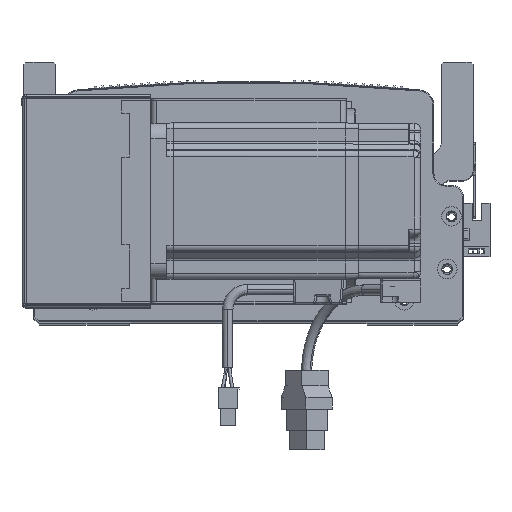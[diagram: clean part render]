
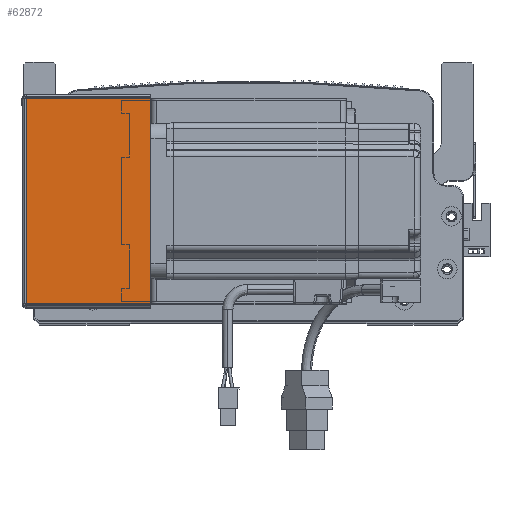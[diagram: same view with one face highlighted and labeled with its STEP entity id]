
A CAD part, top view. The second image highlights one B-rep face of the part: STEP entity #62872.
In plain terms, the highlighted planar face has unit normal (0, 0, 1) as drawn and (0, 0, -1) by its records, which use the part's own axes.
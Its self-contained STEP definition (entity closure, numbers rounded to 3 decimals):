
#5178 = VECTOR ( 'NONE', #24905, 1000. ) ;
#7384 = VECTOR ( 'NONE', #27417, 1000. ) ;
#10289 = LINE ( 'NONE', #39219, #7384 ) ;
#12808 = AXIS2_PLACEMENT_3D ( 'NONE', #70275, #65058, #71358 ) ;
#13417 = CARTESIAN_POINT ( 'NONE',  ( 0., 0.707, -205.5 ) ) ;
#13525 = DIRECTION ( 'NONE',  ( 1., 0., 0. ) ) ;
#19523 = CARTESIAN_POINT ( 'NONE',  ( 0., 105.293, -205.5 ) ) ;
#19876 = LINE ( 'NONE', #57121, #21864 ) ;
#20150 = VERTEX_POINT ( 'NONE', #55395 ) ;
#20964 = PLANE ( 'NONE',  #12808 ) ;
#21864 = VECTOR ( 'NONE', #50261, 1000. ) ;
#22062 = ORIENTED_EDGE ( 'NONE', *, *, #71916, .F. ) ;
#24902 = VECTOR ( 'NONE', #13525, 1000. ) ;
#24905 = DIRECTION ( 'NONE',  ( 1., 0., 0. ) ) ;
#25859 = ORIENTED_EDGE ( 'NONE', *, *, #79689, .T. ) ;
#26536 = VERTEX_POINT ( 'NONE', #50273 ) ;
#27417 = DIRECTION ( 'NONE',  ( 0., -1., 0. ) ) ;
#32824 = EDGE_CURVE ( 'NONE', #26536, #74600, #10289, .T. ) ;
#34626 = EDGE_CURVE ( 'NONE', #45460, #74600, #45316, .T. ) ;
#35599 = CARTESIAN_POINT ( 'NONE',  ( 64.5, 0.707, -205.5 ) ) ;
#39219 = CARTESIAN_POINT ( 'NONE',  ( 64.5, 0., -205.5 ) ) ;
#45316 = LINE ( 'NONE', #13417, #5178 ) ;
#45460 = VERTEX_POINT ( 'NONE', #51419 ) ;
#50261 = DIRECTION ( 'NONE',  ( 0., -1., 0. ) ) ;
#50273 = CARTESIAN_POINT ( 'NONE',  ( 64.5, 105.293, -205.5 ) ) ;
#51358 = LINE ( 'NONE', #19523, #24902 ) ;
#51419 = CARTESIAN_POINT ( 'NONE',  ( 0.737, 0.707, -205.5 ) ) ;
#55395 = CARTESIAN_POINT ( 'NONE',  ( 0.737, 105.293, -205.5 ) ) ;
#56221 = ORIENTED_EDGE ( 'NONE', *, *, #32824, .T. ) ;
#57121 = CARTESIAN_POINT ( 'NONE',  ( 0.737, 0., -205.5 ) ) ;
#62872 = ADVANCED_FACE ( 'NONE', ( #66437 ), #20964, .F. ) ;
#65058 = DIRECTION ( 'NONE',  ( 0., 0., 1. ) ) ;
#66437 = FACE_OUTER_BOUND ( 'NONE', #75499, .T. ) ;
#70275 = CARTESIAN_POINT ( 'NONE',  ( 0., 0., -205.5 ) ) ;
#71358 = DIRECTION ( 'NONE',  ( 1., 0., 0. ) ) ;
#71916 = EDGE_CURVE ( 'NONE', #20150, #45460, #19876, .T. ) ;
#74600 = VERTEX_POINT ( 'NONE', #35599 ) ;
#75499 = EDGE_LOOP ( 'NONE', ( #22062, #25859, #56221, #80522 ) ) ;
#79689 = EDGE_CURVE ( 'NONE', #20150, #26536, #51358, .T. ) ;
#80522 = ORIENTED_EDGE ( 'NONE', *, *, #34626, .F. ) ;
